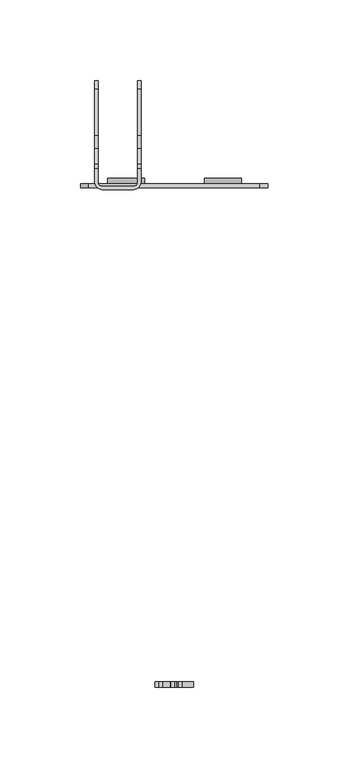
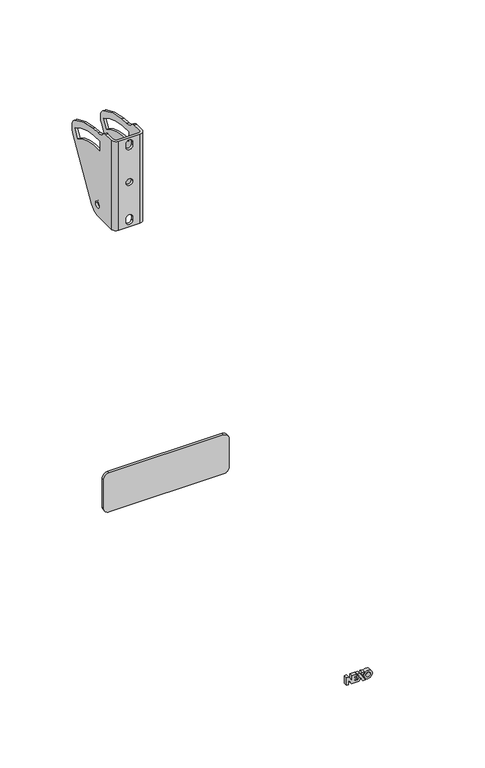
"""IFC4 building model written with IfcOpenShell, lengths in millimetres: proxy geometry, ePS12-WM02-WVM : ePS12-WM02-WVM."""

from ifc_helpers import new_model, si_unit, point, frame, frame_2d, origin, place, context, project, spatial, polyline, circle_curve, trimmed, segment, composite_curve, outline, extrude, source, transform, mapped, element, save
from ifc_brep_helpers import plane_surface, cylinder_surface, revolved_surface, advanced_brep


def generic_models_0ea8e54b(model_context):
    return source(origin(), model_context, "Body", "SolidModel", [
        advanced_brep(
        [(14.25, -87.7767512, 46.1064927), (12.25, -87.7767512, 46.1064927), (12.25, -90.3716849, 47.0), (14.25, -90.3902878, 47.0), (-12.25, -87.7767512, 46.1064927), (-14.25, -87.7767512, 46.1064927), (-14.25, -90.3716849, 47.0), (-12.25, -90.3902878, 47.0), (14.25, -78.1254974, 41.1889332), (12.25, -78.1254974, 41.1889332), (-12.25, -78.1254974, 41.1889332), (-14.25, -78.1254974, 41.1889332), (14.25, -70.2644375, 40.7606486), (12.25, -70.2644375, 40.7606486), (-12.25, -70.2644375, 40.7606486), (-14.25, -70.2644375, 40.7606486), (14.25, -41.518081, 31.4203912), (12.25, -41.518081, 31.4203912), (-12.25, -41.518081, 31.4203912), (-14.25, -41.518081, 31.4203912), (14.25, -36.3035006, 23.4663297), (12.25, -36.3035006, 23.4663297), (-12.25, -36.3035006, 23.4663297), (-14.25, -36.3035006, 23.4663297), (14.25, -37.6729327, 17.0148555), (12.25, -37.6729327, 17.0148555), (12.25, -36.3035006, 21.1548402), (14.25, -36.3035006, 21.1548402), (-12.25, -37.6729327, 17.0148555), (-14.25, -37.6729327, 17.0148555), (-14.25, -36.3035006, 21.1548402), (-12.25, -36.3035006, 21.1548402), (14.25, -67.9331802, -34.7955433), (12.25, -67.9331802, -34.7955433), (-12.25, -67.9331802, -34.7955433), (-14.25, -67.9331802, -34.7955433), (14.25, -77.0, -40.0), (12.25, -77.0, -40.0), (-12.25, -77.0, -40.0), (-14.25, -77.0, -40.0), (12.25, -80.0, -29.5), (14.25, -80.0, -29.5), (14.25, -74.0, -29.5), (12.25, -74.0, -29.5), (-14.25, -80.0, -29.5), (-12.25, -80.0, -29.5), (-12.25, -74.0, -29.5), (-14.25, -74.0, -29.5), (-14.25, -99.0, 47.0), (-9.75, -103.5, 47.0), (9.75, -103.5, 47.0), (14.25, -99.0, 47.0), (12.25, -99.0, 47.0), (9.75, -101.5, 47.0), (-9.75, -101.5, 47.0), (-12.25, -99.0, 47.0), (-12.25, -99.0, -40.0), (-9.75, -101.5, -40.0), (9.75, -101.5, -40.0), (12.25, -99.0, -40.0), (14.25, -99.0, -40.0), (9.75, -103.5, -40.0), (-9.75, -103.5, -40.0), (-14.25, -99.0, -40.0), (-3.1, -103.5, 41.6), (3.1, -103.5, 41.6), (3.1, -103.5, 38.5), (-3.1, -103.5, 38.5), (3.1, -103.5, -31.4906202), (3.1, -103.5, -34.5906202), (-3.1, -103.5, -34.5906202), (-3.1, -103.5, -31.4906202), (3.1, -103.5, 3.4898915), (-3.1, -103.5, 3.4898915), (14.25, -36.2397525, 22.278058), (14.25, -41.2927077, 23.7144233), (14.25, -45.8031363, 15.9021317), (14.25, -81.0, 25.3556682), (14.25, -81.0, 34.55), (12.25, -36.3035006, 22.278058), (12.25, -45.8031363, 15.9021317), (12.25, -41.2927077, 23.7144233), (12.25, -81.0, 34.55), (12.25, -81.0, 25.3556682), (3.1, -101.5, 41.6), (-3.1, -101.5, 41.6), (-3.1, -101.5, 38.5), (3.1, -101.5, 38.5), (3.1, -101.5, -34.5906202), (3.1, -101.5, -31.4906202), (-3.1, -101.5, -31.4906202), (-3.1, -101.5, -34.5906202), (-3.1, -101.5, 3.4898915), (3.1, -101.5, 3.4898915), (-12.25, -36.2397525, 22.278058), (-12.25, -41.2927077, 23.7144233), (-12.25, -45.8031363, 15.9021317), (-12.25, -81.0, 25.3556682), (-12.25, -81.0, 34.55), (-14.25, -36.3035006, 22.278058), (-14.25, -45.8031363, 15.9021317), (-14.25, -41.2927077, 23.7144233), (-14.25, -81.0, 34.55), (-14.25, -81.0, 25.3556682)],
        [
            (0, 1),
            (1, 2, circle_curve(frame((12.25, -90.3809864, 42.7581156), z_axis=(1.0, 0.0, 0.0), x_axis=(0.0, 1.0, 0.0)), 4.2418946)),
            (2, 3),
            (3, 0, circle_curve(frame((14.25, -90.3809864, 42.7581156), z_axis=(-1.0, 0.0, 0.0), x_axis=(0.0, 1.0, 0.0)), 4.2418946)),
            (4, 5),
            (5, 6, circle_curve(frame((-14.25, -90.3809864, 42.7581156), z_axis=(1.0, 0.0, 0.0), x_axis=(0.0, 1.0, 0.0)), 4.2418946)),
            (6, 7),
            (7, 4, circle_curve(frame((-12.25, -90.3809864, 42.7581156), z_axis=(-1.0, 0.0, 0.0), x_axis=(0.0, 1.0, 0.0)), 4.2418946)),
            (0, 8, circle_curve(frame((14.25, -76.3075404, 56.6864806), z_axis=(1.0, 0.0, 0.0), x_axis=(0.0, 1.0, 0.0)), 15.6038118)),
            (8, 9),
            (9, 1, circle_curve(frame((12.25, -76.3075404, 56.6864806), z_axis=(-1.0, 0.0, 0.0), x_axis=(0.0, 1.0, 0.0)), 15.6038118)),
            (4, 10, circle_curve(frame((-12.25, -76.3075404, 56.6864806), z_axis=(1.0, 0.0, 0.0), x_axis=(0.0, 1.0, 0.0)), 15.6038118)),
            (10, 11),
            (11, 5, circle_curve(frame((-14.25, -76.3075404, 56.6864806), z_axis=(-1.0, 0.0, 0.0), x_axis=(0.0, 1.0, 0.0)), 15.6038118)),
            (8, 12),
            (12, 13),
            (13, 9),
            (10, 14),
            (14, 15),
            (15, 11),
            (12, 16, circle_curve(frame((14.25, -78.2021031, -32.5751969), z_axis=(-1.0, 0.0, 0.0), x_axis=(0.0, 1.0, 0.0)), 73.7641699)),
            (16, 17),
            (17, 13, circle_curve(frame((12.25, -78.2021031, -32.5751969), z_axis=(1.0, 0.0, 0.0), x_axis=(0.0, 1.0, 0.0)), 73.7641699)),
            (14, 18, circle_curve(frame((-12.25, -78.2021031, -32.5751969), z_axis=(-1.0, 0.0, 0.0), x_axis=(0.0, 1.0, 0.0)), 73.7641699)),
            (18, 19),
            (19, 15, circle_curve(frame((-14.25, -78.2021031, -32.5751969), z_axis=(1.0, 0.0, 0.0), x_axis=(0.0, 1.0, 0.0)), 73.7641699)),
            (16, 20, circle_curve(frame((14.25, -46.7400712, 22.3105849), z_axis=(-1.0, 0.0, 0.0), x_axis=(0.0, 1.0, 0.0)), 10.5003691)),
            (20, 21),
            (21, 17, circle_curve(frame((12.25, -46.7400712, 22.3105849), z_axis=(1.0, 0.0, 0.0), x_axis=(0.0, 1.0, 0.0)), 10.5003691)),
            (18, 22, circle_curve(frame((-12.25, -46.7400712, 22.3105849), z_axis=(-1.0, 0.0, 0.0), x_axis=(0.0, 1.0, 0.0)), 10.5003691)),
            (22, 23),
            (23, 19, circle_curve(frame((-14.25, -46.7400712, 22.3105849), z_axis=(1.0, 0.0, 0.0), x_axis=(0.0, 1.0, 0.0)), 10.5003691)),
            (24, 25),
            (25, 26, circle_curve(frame((12.25, -46.7400712, 22.3105849), z_axis=(1.0, 0.0, 0.0), x_axis=(0.0, 1.0, 0.0)), 10.5003691)),
            (26, 27),
            (27, 24, circle_curve(frame((14.25, -46.7400712, 22.3105849), z_axis=(-1.0, 0.0, 0.0), x_axis=(0.0, 1.0, 0.0)), 10.5003691)),
            (28, 29),
            (29, 30, circle_curve(frame((-14.25, -46.7400712, 22.3105849), z_axis=(1.0, 0.0, 0.0), x_axis=(0.0, 1.0, 0.0)), 10.5003691)),
            (30, 31),
            (31, 28, circle_curve(frame((-12.25, -46.7400712, 22.3105849), z_axis=(-1.0, 0.0, 0.0), x_axis=(0.0, 1.0, 0.0)), 10.5003691)),
            (24, 32),
            (32, 33),
            (33, 25),
            (28, 34),
            (34, 35),
            (35, 29),
            (32, 36, circle_curve(frame((14.25, -77.0, -29.5), z_axis=(-1.0, 0.0, 0.0), x_axis=(0.0, 1.0, 0.0)), 10.5)),
            (36, 37),
            (37, 33, circle_curve(frame((12.25, -77.0, -29.5), z_axis=(1.0, 0.0, 0.0), x_axis=(0.0, 1.0, 0.0)), 10.5)),
            (34, 38, circle_curve(frame((-12.25, -77.0, -29.5), z_axis=(-1.0, 0.0, 0.0), x_axis=(0.0, 1.0, 0.0)), 10.5)),
            (38, 39),
            (39, 35, circle_curve(frame((-14.25, -77.0, -29.5), z_axis=(1.0, 0.0, 0.0), x_axis=(0.0, 1.0, 0.0)), 10.5)),
            (40, 41),
            (41, 42, circle_curve(frame((14.25, -77.0, -29.5), z_axis=(1.0, 0.0, 0.0), x_axis=(0.0, 1.0, 0.0)), 3.0)),
            (42, 43),
            (43, 40, circle_curve(frame((12.25, -77.0, -29.5), z_axis=(-1.0, 0.0, 0.0), x_axis=(0.0, 1.0, 0.0)), 3.0)),
            (44, 45),
            (45, 46, circle_curve(frame((-12.25, -77.0, -29.5), z_axis=(1.0, 0.0, 0.0), x_axis=(0.0, 1.0, 0.0)), 3.0)),
            (46, 47),
            (47, 44, circle_curve(frame((-14.25, -77.0, -29.5), z_axis=(-1.0, 0.0, 0.0), x_axis=(0.0, 1.0, 0.0)), 3.0)),
            (40, 43, circle_curve(frame((12.25, -77.0, -29.5), z_axis=(-1.0, 0.0, 0.0), x_axis=(0.0, 1.0, 0.0)), 3.0)),
            (42, 41, circle_curve(frame((14.25, -77.0, -29.5), z_axis=(1.0, 0.0, 0.0), x_axis=(0.0, 1.0, 0.0)), 3.0)),
            (44, 47, circle_curve(frame((-14.25, -77.0, -29.5), z_axis=(-1.0, 0.0, 0.0), x_axis=(0.0, 1.0, 0.0)), 3.0)),
            (46, 45, circle_curve(frame((-12.25, -77.0, -29.5), z_axis=(1.0, 0.0, 0.0), x_axis=(0.0, 1.0, 0.0)), 3.0)),
            (48, 49, circle_curve(frame((-9.75, -99.0, 47.0), z_axis=(0.0, 0.0, 1.0), x_axis=(1.0, 0.0, 0.0)), 4.5)),
            (49, 50),
            (50, 51, circle_curve(frame((9.75, -99.0, 47.0), z_axis=(0.0, 0.0, 1.0), x_axis=(1.0, 0.0, 0.0)), 4.5)),
            (51, 3),
            (2, 52),
            (52, 53, circle_curve(frame((9.75, -99.0, 47.0), z_axis=(0.0, 0.0, -1.0), x_axis=(1.0, 0.0, 0.0)), 2.5)),
            (53, 54),
            (54, 55, circle_curve(frame((-9.75, -99.0, 47.0), z_axis=(0.0, 0.0, -1.0), x_axis=(1.0, 0.0, 0.0)), 2.5)),
            (55, 7),
            (6, 48),
            (56, 57, circle_curve(frame((-9.75, -99.0, -40.0), z_axis=(0.0, 0.0, 1.0), x_axis=(1.0, 0.0, 0.0)), 2.5)),
            (57, 58),
            (58, 59, circle_curve(frame((9.75, -99.0, -40.0), z_axis=(0.0, 0.0, 1.0), x_axis=(1.0, 0.0, 0.0)), 2.5)),
            (59, 37),
            (36, 60),
            (60, 61, circle_curve(frame((9.75, -99.0, -40.0), z_axis=(0.0, 0.0, -1.0), x_axis=(1.0, 0.0, 0.0)), 4.5)),
            (61, 62),
            (62, 63, circle_curve(frame((-9.75, -99.0, -40.0), z_axis=(0.0, 0.0, -1.0), x_axis=(1.0, 0.0, 0.0)), 4.5)),
            (63, 39),
            (38, 56),
            (49, 62),
            (61, 50),
            (64, 65, circle_curve(frame((0.0, -103.5, 41.6), z_axis=(0.0, 1.0, 0.0), x_axis=(1.0, 0.0, 0.0)), 3.1)),
            (65, 66),
            (66, 67, circle_curve(frame((0.0, -103.5, 38.5), z_axis=(0.0, 1.0, 0.0), x_axis=(1.0, 0.0, 0.0)), 3.1)),
            (67, 64),
            (68, 69),
            (69, 70, circle_curve(frame((0.0, -103.5, -34.5906202), z_axis=(0.0, 1.0, 0.0), x_axis=(1.0, 0.0, 0.0)), 3.1)),
            (70, 71),
            (71, 68, circle_curve(frame((0.0, -103.5, -31.4906202), z_axis=(0.0, 1.0, 0.0), x_axis=(1.0, 0.0, 0.0)), 3.1)),
            (72, 73, circle_curve(frame((0.0, -103.5, 3.4898915), z_axis=(0.0, 1.0, 0.0), x_axis=(1.0, 0.0, 0.0)), 3.1)),
            (73, 72, circle_curve(frame((0.0, -103.5, 3.4898915), z_axis=(0.0, 1.0, 0.0), x_axis=(1.0, 0.0, 0.0)), 3.1)),
            (51, 60),
            (27, 74),
            (74, 20),
            (75, 76),
            (76, 77, circle_curve(frame((14.25, -77.0093909, -30.0349635), z_axis=(1.0, 0.0, 0.0), x_axis=(0.0, 1.0, 0.0)), 55.5341971)),
            (77, 78),
            (78, 75, circle_curve(frame((14.25, -77.6772538, -31.4457619), z_axis=(-1.0, 0.0, 0.0), x_axis=(0.0, 1.0, 0.0)), 66.0793555)),
            (26, 79),
            (79, 21),
            (59, 52),
            (80, 81),
            (81, 82, circle_curve(frame((12.25, -77.6772538, -31.4457619), z_axis=(1.0, 0.0, 0.0), x_axis=(0.0, 1.0, 0.0)), 66.0793555)),
            (82, 83),
            (83, 80, circle_curve(frame((12.25, -77.0093909, -30.0349635), z_axis=(-1.0, 0.0, 0.0), x_axis=(0.0, 1.0, 0.0)), 55.5341971)),
            (53, 58),
            (57, 54),
            (84, 85, circle_curve(frame((0.0, -101.5, 41.6), z_axis=(0.0, -1.0, 0.0), x_axis=(1.0, 0.0, 0.0)), 3.1)),
            (85, 86),
            (86, 87, circle_curve(frame((0.0, -101.5, 38.5), z_axis=(0.0, -1.0, 0.0), x_axis=(1.0, 0.0, 0.0)), 3.1)),
            (87, 84),
            (88, 89),
            (89, 90, circle_curve(frame((0.0, -101.5, -31.4906202), z_axis=(0.0, -1.0, 0.0), x_axis=(1.0, 0.0, 0.0)), 3.1)),
            (90, 91),
            (91, 88, circle_curve(frame((0.0, -101.5, -34.5906202), z_axis=(0.0, -1.0, 0.0), x_axis=(1.0, 0.0, 0.0)), 3.1)),
            (92, 93, circle_curve(frame((0.0, -101.5, 3.4898915), z_axis=(0.0, -1.0, 0.0), x_axis=(1.0, 0.0, 0.0)), 3.1)),
            (93, 92, circle_curve(frame((0.0, -101.5, 3.4898915), z_axis=(0.0, -1.0, 0.0), x_axis=(1.0, 0.0, 0.0)), 3.1)),
            (55, 56),
            (31, 94),
            (94, 22),
            (95, 96),
            (96, 97, circle_curve(frame((-12.25, -77.0093909, -30.0349635), z_axis=(1.0, 0.0, 0.0), x_axis=(0.0, 1.0, 0.0)), 55.5341971)),
            (97, 98),
            (98, 95, circle_curve(frame((-12.25, -77.6772538, -31.4457619), z_axis=(-1.0, 0.0, 0.0), x_axis=(0.0, 1.0, 0.0)), 66.0793555)),
            (30, 99),
            (99, 23),
            (63, 48),
            (100, 101),
            (101, 102, circle_curve(frame((-14.25, -77.6772538, -31.4457619), z_axis=(1.0, 0.0, 0.0), x_axis=(0.0, 1.0, 0.0)), 66.0793555)),
            (102, 103),
            (103, 100, circle_curve(frame((-14.25, -77.0093909, -30.0349635), z_axis=(-1.0, 0.0, 0.0), x_axis=(0.0, 1.0, 0.0)), 55.5341971)),
            (84, 65),
            (64, 85),
            (67, 86),
            (66, 87),
            (88, 69),
            (68, 89),
            (71, 90),
            (70, 91),
            (92, 73),
            (72, 93),
            (80, 76),
            (75, 81),
            (100, 96),
            (95, 101),
            (78, 82),
            (98, 102),
            (77, 83),
            (97, 103),
        ],
        [
            cylinder_surface(frame((-20.0, -90.3809864, 42.7581156), z_axis=(-1.0, 0.0, 0.0), x_axis=(0.0, 1.0, 0.0)), 4.2418946),
            revolved_surface(polyline([(14.25, -60.70372859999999, 56.6864806), (12.25, -60.70372859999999, 56.6864806)]), (-20.0, -76.3075404, 56.6864806), (1.0, 0.0, 0.0)),
            revolved_surface(polyline([(-12.25, -60.70372859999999, 56.6864806), (-14.25, -60.70372859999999, 56.6864806)]), (-20.0, -76.3075404, 56.6864806), (1.0, 0.0, 0.0)),
            plane_surface(frame((20.0, -78.1254974, 41.1889332), z_axis=(0.0, 0.05440111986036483, 0.9985191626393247), x_axis=(-1.0, 0.0, 0.0))),
            cylinder_surface(frame((-20.0, -78.2021031, -32.5751969), z_axis=(-1.0, 0.0, 0.0), x_axis=(0.0, 1.0, 0.0)), 73.7641699),
            cylinder_surface(frame((-20.0, -46.7400712, 22.3105849), z_axis=(-1.0, 0.0, 0.0), x_axis=(0.0, 1.0, 0.0)), 10.5003691),
            plane_surface(frame((20.0, -37.6729327, 17.0148555), z_axis=(0.0, 0.8635066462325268, -0.504337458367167), x_axis=(-1.0, 0.0, 0.0))),
            cylinder_surface(frame((-20.0, -77.0, -29.5), z_axis=(-1.0, 0.0, 0.0), x_axis=(0.0, 1.0, 0.0)), 10.5),
            revolved_surface(polyline([(14.25, -74.0, -29.5), (12.25, -74.0, -29.5)]), (0.0, -77.0, -29.5), (1.0, 0.0, 0.0)),
            revolved_surface(polyline([(-12.25, -74.0, -29.5), (-14.25, -74.0, -29.5)]), (0.0, -77.0, -29.5), (1.0, 0.0, 0.0)),
            plane_surface(frame((-5.25, -99.0, 47.0), z_axis=(0.0, 0.0, 1.0), x_axis=(0.0, 1.0, 0.0))),
            plane_surface(frame((-5.25, -99.0, -40.0), z_axis=(0.0, 0.0, -1.0), x_axis=(0.0, -1.0, 0.0))),
            plane_surface(frame((-9.75, -103.5, 47.0), z_axis=(0.0, -1.0, 0.0), x_axis=(0.0, 0.0, -1.0))),
            plane_surface(frame((14.25, -99.0, 47.0), z_axis=(1.0, 0.0, 0.0), x_axis=(0.0, 0.0, -1.0))),
            plane_surface(frame((14.25, -36.3035006, 47.0), z_axis=(0.0, 1.0, 0.0), x_axis=(0.0, 0.0, -1.0))),
            plane_surface(frame((12.25, -36.3035006, 47.0), z_axis=(-1.0, 0.0, 0.0), x_axis=(0.0, 0.0, -1.0))),
            plane_surface(frame((9.75, -101.5, 47.0), z_axis=(0.0, 1.0, 0.0), x_axis=(0.0, 0.0, -1.0))),
            plane_surface(frame((-12.25, -99.0, 47.0), z_axis=(1.0, 0.0, 0.0), x_axis=(0.0, 0.0, -1.0))),
            plane_surface(frame((-12.25, -36.3035006, 47.0), z_axis=(0.0, 1.0, 0.0), x_axis=(0.0, 0.0, -1.0))),
            plane_surface(frame((-14.25, -36.3035006, 47.0), z_axis=(-1.0, 0.0, 0.0), x_axis=(0.0, 0.0, -1.0))),
            revolved_surface(polyline([(3.1, -103.5, 41.6), (3.1, -101.5, 41.6)]), (0.0, 0.0, 41.6), (0.0, -1.0, 0.0)),
            plane_surface(frame((-3.1, -103.5, 41.6), z_axis=(1.0, 0.0, 0.0), x_axis=(0.0, 1.0, 0.0))),
            revolved_surface(polyline([(3.1, -103.5, 38.5), (3.1, -101.5, 38.5)]), (0.0, 0.0, 38.5), (0.0, -1.0, 0.0)),
            plane_surface(frame((3.1, -103.5, 38.5), z_axis=(-1.0, 0.0, 0.0), x_axis=(0.0, 1.0, 0.0))),
            plane_surface(frame((3.1, -103.5, -34.5906202), z_axis=(-1.0, 0.0, 0.0), x_axis=(0.0, 1.0, 0.0))),
            revolved_surface(polyline([(3.1, -103.5, -31.4906202), (3.1, -101.5, -31.4906202)]), (0.0, 0.0, -31.4906202), (0.0, -1.0, 0.0)),
            plane_surface(frame((-3.1, -103.5, -31.4906202), z_axis=(1.0, 0.0, 0.0), x_axis=(0.0, 1.0, 0.0))),
            revolved_surface(polyline([(3.1, -103.5, -34.5906202), (3.1, -101.5, -34.5906202)]), (0.0, 0.0, -34.5906202), (0.0, -1.0, 0.0)),
            revolved_surface(polyline([(3.1, -103.5, 3.4898915), (3.1, -101.5, 3.4898915)]), (0.0, 0.0, 3.4898915), (0.0, -1.0, 0.0)),
            cylinder_surface(frame((-9.75, -99.0, -40.0), z_axis=(0.0, 0.0, 1.0), x_axis=(1.0, 0.0, 0.0)), 4.5),
            cylinder_surface(frame((9.75, -99.0, -40.0), z_axis=(0.0, 0.0, 1.0), x_axis=(1.0, 0.0, 0.0)), 4.5),
            revolved_surface(polyline([(12.25, -99.0, -40.0), (12.25, -99.0, 47.0)]), (9.75, -99.0, -40.0), (0.0, 0.0, -1.0)),
            revolved_surface(polyline([(-7.25, -99.0, -40.0), (-7.25, -99.0, 47.0)]), (-9.75, -99.0, -40.0), (0.0, 0.0, -1.0)),
            plane_surface(frame((20.0, -45.8031363, 15.9021317), z_axis=(0.0, -0.8660254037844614, 0.499999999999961), x_axis=(-1.0, 0.0, 0.0))),
            revolved_surface(polyline([(14.25, -11.597898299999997, -31.4457619), (12.25, -11.597898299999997, -31.4457619)]), (0.0, -77.6772538, -31.4457619), (1.0, 0.0, 0.0)),
            revolved_surface(polyline([(-12.25, -11.597898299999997, -31.4457619), (-14.25, -11.597898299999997, -31.4457619)]), (0.0, -77.6772538, -31.4457619), (1.0, 0.0, 0.0)),
            plane_surface(frame((20.0, -81.0, 34.55), z_axis=(0.0, 1.0, 0.0), x_axis=(-1.0, 0.0, 0.0))),
            cylinder_surface(frame((0.0, -77.0093909, -30.0349635), z_axis=(-1.0, 0.0, 0.0), x_axis=(0.0, 1.0, 0.0)), 55.5341971),
        ],
        [
            (0, [[1, 2, 3, 4]]),
            (0, [[5, 6, 7, 8]]),
            (1, [[-1, 9, 10, 11]]),
            (2, [[-5, 12, 13, 14]]),
            (3, [[-10, 15, 16, 17]]),
            (3, [[-13, 18, 19, 20]]),
            (4, [[-16, 21, 22, 23]]),
            (4, [[-19, 24, 25, 26]]),
            (5, [[-22, 27, 28, 29]]),
            (5, [[-25, 30, 31, 32]]),
            (5, [[33, 34, 35, 36]]),
            (5, [[37, 38, 39, 40]]),
            (6, [[-33, 41, 42, 43]]),
            (6, [[-37, 44, 45, 46]]),
            (7, [[-42, 47, 48, 49]]),
            (7, [[-45, 50, 51, 52]]),
            (8, [[53, 54, 55, 56]]),
            (9, [[57, 58, 59, 60]]),
            (8, [[-53, 61, -55, 62]]),
            (9, [[-57, 63, -59, 64]]),
            (10, [[65, 66, 67, 68, -3, 69, 70, 71, 72, 73, -7, 74]]),
            (11, [[75, 76, 77, 78, -48, 79, 80, 81, 82, 83, -51, 84]]),
            (12, [[-66, 85, -81, 86], [87, 88, 89, 90], [91, 92, 93, 94], [95, 96]]),
            (13, [[97, -79, -47, -41, -36, 98, 99, -27, -21, -15, -9, -4, -68], [-54, -62], [100, 101, 102, 103]]),
            (14, [[-98, -35, 104, 105, -28, -99]]),
            (15, [[106, -69, -2, -11, -17, -23, -29, -105, -104, -34, -43, -49, -78], [-56, -61], [107, 108, 109, 110]]),
            (16, [[-71, 111, -76, 112], [113, 114, 115, 116], [117, 118, 119, 120], [121, 122]]),
            (17, [[123, -84, -50, -44, -40, 124, 125, -30, -24, -18, -12, -8, -73], [-58, -64], [126, 127, 128, 129]]),
            (18, [[-124, -39, 130, 131, -31, -125]]),
            (19, [[132, -74, -6, -14, -20, -26, -32, -131, -130, -38, -46, -52, -83], [-60, -63], [133, 134, 135, 136]]),
            (20, [[137, -87, 138, -113]]),
            (21, [[-138, -90, 139, -114]]),
            (22, [[-139, -89, 140, -115]]),
            (23, [[-137, -116, -140, -88]]),
            (24, [[141, -91, 142, -117]]),
            (25, [[-142, -94, 143, -118]]),
            (26, [[-143, -93, 144, -119]]),
            (27, [[-141, -120, -144, -92]]),
            (28, [[145, -95, 146, -121]]),
            (28, [[-145, -122, -146, -96]]),
            (29, [[-65, -132, -82, -85]]),
            (30, [[-67, -86, -80, -97]]),
            (31, [[-70, -106, -77, -111]]),
            (32, [[-72, -112, -75, -123]]),
            (33, [[147, -100, 148, -107]]),
            (33, [[149, -126, 150, -133]]),
            (34, [[-148, -103, 151, -108]]),
            (35, [[-150, -129, 152, -134]]),
            (36, [[-151, -102, 153, -109]]),
            (36, [[-152, -128, 154, -135]]),
            (37, [[-147, -110, -153, -101]]),
            (37, [[-149, -136, -154, -127]]),
        ],
    ),
        extrude(outline(composite_curve([segment(trimmed(circle_curve(frame_2d((-305.5810313, 43.0749632)), 3.9406238), [point((-305.5810313, 39.1343393))], [point((-305.5810313, 47.015587))], False, "CARTESIAN"), True, "CONTINUOUS"), segment(trimmed(circle_curve(frame_2d((-305.5810313, 43.0749632)), 3.9406238), [point((-305.5810313, 47.015587))], [point((-305.5810313, 39.1343393))], False, "CARTESIAN"), True, "CONTINUOUS")], self_intersect=False), holes=[composite_curve([segment(trimmed(circle_curve(frame_2d((-305.5810313, 43.0749632)), 2.0681078), [point((-305.5810313, 41.0068554))], [point((-305.5810313, 45.1430709))], True, "CARTESIAN"), True, "CONTINUOUS"), segment(trimmed(circle_curve(frame_2d((-305.5810313, 43.0749632)), 2.0681078), [point((-305.5810313, 45.1430709))], [point((-305.5810313, 41.0068554))], True, "CARTESIAN"), True, "CONTINUOUS")], self_intersect=False)]), frame((0.0, -411.3827768, 0.0), z_axis=(0.0, 1.0, 0.0), x_axis=(0.0, 0.0, 1.0)), (0.0, 0.0, 1.0), 3.5087945),
        extrude(outline(polyline([(-301.9101933, 23.0635897), (-309.1899604, 23.0635897), (-309.1899604, 24.9559569), (-305.0246302, 24.9559569), (-309.1899604, 27.7310539), (-309.1899604, 34.5819636), (-307.3149892, 35.9005359), (-305.7154558, 34.8371588), (-307.5872959, 33.4676162), (-307.5872959, 30.4339869), (-306.3330086, 30.4339869), (-306.3330086, 32.7170997), (-304.7302784, 32.7170997), (-304.7302784, 30.4339869), (-303.5137751, 30.4339869), (-303.5137751, 32.8410616), (-302.7137751, 32.8410616), (-301.9110449, 32.3074028), (-301.9110449, 28.0390268), (-306.3611009, 28.0293352), (-301.9101933, 25.090069), (-301.9101933, 23.0635897)])), frame((0.0, -411.3827768, 0.0), z_axis=(0.0, 1.0, 0.0), x_axis=(0.0, 0.0, 1.0)), (0.0, 0.0, 1.0), 3.5087945),
        extrude(outline(polyline([(-301.9101933, 32.9487179), (-310.1511402, 38.4273371), (-310.1511402, 40.6205398), (-301.9101933, 35.1419206), (-301.9101933, 32.9487179)])), frame((0.0, -411.3827768, 0.0), z_axis=(0.0, 1.0, 0.0), x_axis=(0.0, 0.0, 1.0)), (0.0, 0.0, 1.0), 3.5087945),
        extrude(outline(polyline([(-301.9101933, 39.689352), (-301.9101933, 37.3625614), (-303.1781503, 36.6147671), (-304.8090442, 37.6989929), (-301.9101933, 39.689352)])), frame((0.0, -411.3827768, 0.0), z_axis=(0.0, 1.0, 0.0), x_axis=(0.0, 0.0, 1.0)), (0.0, 0.0, 1.0), 3.5087945),
        extrude(outline(composite_curve([segment(trimmed(circle_curve(frame_2d((-293.8511402, 4.9999424)), 11.4515227), [point((-293.8511402, 16.4514651))], [point((-293.8511402, -6.4515802))], False, "CARTESIAN"), True, "CONTINUOUS"), segment(trimmed(circle_curve(frame_2d((-293.8511402, 4.9999424)), 11.4515227), [point((-293.8511402, -6.4515802))], [point((-293.8511402, 16.4514651))], False, "CARTESIAN"), True, "CONTINUOUS")], self_intersect=False), holes=[composite_curve([segment(trimmed(circle_curve(frame_2d((-293.8511402, 4.9999424)), 5.0), [point((-293.8511402, 9.9999424))], [point((-293.8511402, -5.76e-05))], True, "CARTESIAN"), True, "CONTINUOUS"), segment(trimmed(circle_curve(frame_2d((-293.8511402, 4.9999424)), 5.0), [point((-293.8511402, -5.76e-05))], [point((-293.8511402, 9.9999424))], True, "CARTESIAN"), True, "CONTINUOUS")], self_intersect=False)]), frame((0.0, -99.8575224, 0.0), z_axis=(0.0, 1.0, 0.0), x_axis=(0.0, 0.0, 1.0)), (0.0, 0.0, 1.0), 3.4052646),
        extrude(outline(composite_curve([segment(trimmed(circle_curve(frame_2d((-293.8511402, 64.9999424)), 11.4515227), [point((-293.8511402, 76.4514651))], [point((-293.8511402, 53.5484198))], False, "CARTESIAN"), True, "CONTINUOUS"), segment(trimmed(circle_curve(frame_2d((-293.8511402, 64.9999424)), 11.4515227), [point((-293.8511402, 53.5484198))], [point((-293.8511402, 76.4514651))], False, "CARTESIAN"), True, "CONTINUOUS")], self_intersect=False), holes=[composite_curve([segment(trimmed(circle_curve(frame_2d((-293.8511402, 64.9999424)), 5.0), [point((-293.8511402, 69.9999424))], [point((-293.8511402, 59.9999424))], True, "CARTESIAN"), True, "CONTINUOUS"), segment(trimmed(circle_curve(frame_2d((-293.8511402, 64.9999424)), 5.0), [point((-293.8511402, 59.9999424))], [point((-293.8511402, 69.9999424))], True, "CARTESIAN"), True, "CONTINUOUS")], self_intersect=False)]), frame((0.0, -99.8575224, 0.0), z_axis=(0.0, 1.0, 0.0), x_axis=(0.0, 0.0, 1.0)), (0.0, 0.0, 1.0), 3.4052646),
        extrude(outline(composite_curve([segment(polyline([(-274.8511402, 87.9999424), (-274.8511402, -18.0000576)]), True, "CONTINUOUS"), segment(trimmed(circle_curve(frame_2d((-279.8511402, -18.0000576)), 5.0), [point((-274.8511402, -18.0000576))], [point((-279.8511402, -23.0000576))], False, "CARTESIAN"), True, "CONTINUOUS"), segment(polyline([(-279.8511402, -23.0000576), (-307.8511402, -23.0000576)]), True, "CONTINUOUS"), segment(trimmed(circle_curve(frame_2d((-307.8511402, -18.0000576)), 5.0), [point((-307.8511402, -23.0000576))], [point((-312.8511402, -18.0000576))], False, "CARTESIAN"), True, "CONTINUOUS"), segment(polyline([(-312.8511402, -18.0000576), (-312.8511402, 87.9999424)]), True, "CONTINUOUS"), segment(trimmed(circle_curve(frame_2d((-307.8511402, 87.9999424)), 5.0), [point((-312.8511402, 87.9999424))], [point((-307.8511402, 92.9999424))], False, "CARTESIAN"), True, "CONTINUOUS"), segment(polyline([(-307.8511402, 92.9999424), (-279.8511402, 92.9999424)]), True, "CONTINUOUS"), segment(trimmed(circle_curve(frame_2d((-279.8511402, 87.9999424)), 5.0), [point((-279.8511402, 92.9999424))], [point((-274.8511402, 87.9999424))], False, "CARTESIAN"), True, "CONTINUOUS")], self_intersect=False)), frame((0.0, -102.3575224, 0.0), z_axis=(0.0, 1.0, 0.0), x_axis=(0.0, 0.0, 1.0)), (0.0, 0.0, 1.0), 2.5),
    ])


if __name__ == "__main__":
    model = new_model("IFC4")
    model_context = context("Model", 3, world=origin())
    ifc_project = project(units=[si_unit("LENGTHUNIT", "METRE", prefix="MILLI")], contexts=[model_context])
    site = spatial("IfcSite", under=ifc_project)
    building = spatial("IfcBuilding", under=site)
    placement = place(None, origin())
    generic_models_shape = generic_models_0ea8e54b(model_context)
    element("IfcBuildingElementProxy", 1, Name="ePS12-WM02-WVM : ePS12-WM02-WVM", ObjectType="ePS12-WM02-WVM : ePS12-WM02-WVM", at=placement, inside=building, context=model_context, shape_type="MappedRepresentation", body=[
        mapped(generic_models_shape, transform((0.0, 0.0, 0.0), x_axis=(1.0, 0.0, 0.0), y_axis=(0.0, 1.0, 0.0), z_axis=(0.0, 0.0, 1.0))),
    ])
    save(model, "model.ifc")
